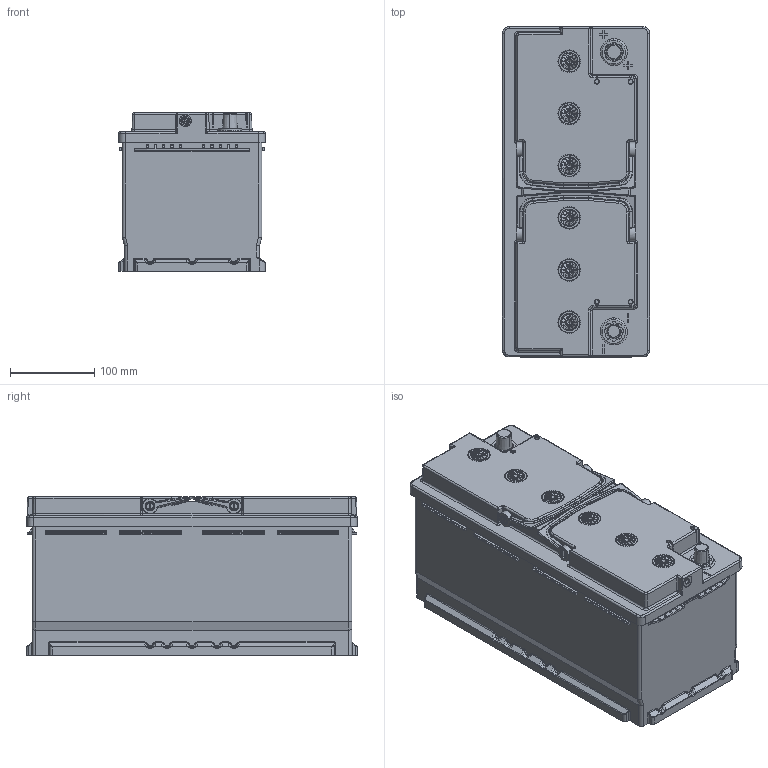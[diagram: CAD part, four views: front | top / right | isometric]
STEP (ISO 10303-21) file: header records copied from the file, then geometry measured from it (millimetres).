
FILE_DESCRIPTION(('CATIA V5 STEP Exchange'),'2;1');
FILE_NAME('C:\Users\bxus\OneDrive - Clarios\Work Item\G driver\AGM released drawing\outline\BASIC\AGM H9 3D.stp','2023-08-10T03:56:51+00:00',('none'),('none'),'CATIA Version 5-6 Release 2017','CATIA V5 STEP AP203','none');
FILE_SCHEMA(('CONFIG_CONTROL_DESIGN'));
Products named in the file (1): 30123151_C3K_00_AGM H9 3D
Bounding box: 174.8 x 393.3 x 188.51 mm (x, y, z)
Volume: 11525070 mm3; surface area: 432051.6 mm2
Topology: 1 solids, 1 shells, 5832 faces, 15408 edges, 9484 vertices
Faces by surface type: cylinder 1876, bspline 1562, plane 1413, cone 446, sphere 313, torus 222
Entity records: 218038 total; most frequent: CARTESIAN_POINT 99768, ORIENTED_EDGE 30108, DIRECTION 16473, EDGE_CURVE 15054, VERTEX_POINT 9484, AXIS2_PLACEMENT_3D 6685, EDGE_LOOP 6122, ADVANCED_FACE 5832
